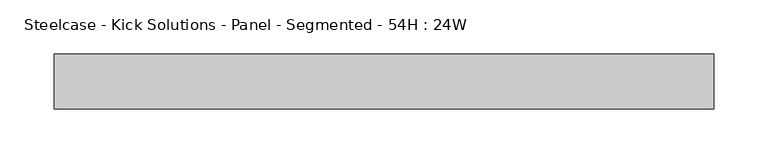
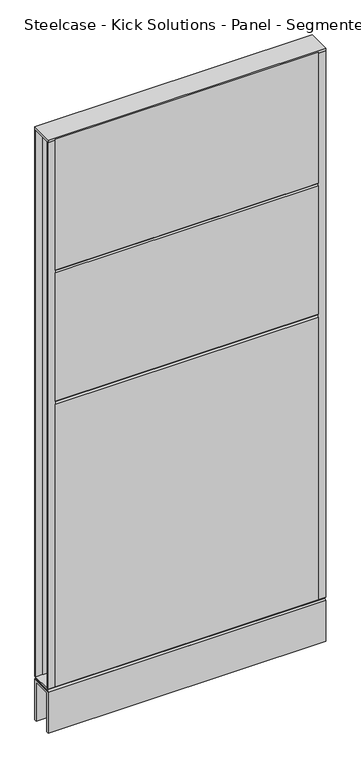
"""IFC4 building model written with IfcOpenShell, lengths in millimetres: furniture geometry, Steelcase - Kick Solutions - Panel - Segmented - 54H : 24W."""

from ifc_helpers import new_model, si_unit, frame, origin, place, context, project, spatial, polyline, outline, extrude, source, transform, mapped, element, save


def steelcase_kick_solutions_panel_segmented_54h_24w_b8406572(model_context):
    return source(origin(), model_context, "Body", "SweptSolid", [
        extrude(outline(polyline([(1.5e-06, 101.600003), (-3.175, 101.600003), (-3.175, 1371.6), (1.5e-06, 1368.5188448), (1.5e-06, 101.600003)])), frame((15.8749996, 0.0, 0.0), z_axis=(1.0, 0.0, 0.0), x_axis=(0.0, 1.0, 0.0)), (0.0, 0.0, 1.0), 577.8500008),
        extrude(outline(polyline([(-50.8000015, 1069.8811552), (-50.8000015, 1374.648), (-47.625, 1371.6), (-47.625, 1066.8), (-50.8000015, 1069.8811552)])), frame((15.8749996, 0.0, 0.0), z_axis=(1.0, 0.0, 0.0), x_axis=(0.0, 1.0, 0.0)), (0.0, 0.0, 1.0), 577.8500008),
        extrude(outline(polyline([(-50.8000015, 765.0811552), (-50.8000015, 1063.7188448), (-47.625, 1066.8), (-47.625, 762.0), (-50.8000015, 765.0811552)])), frame((15.8749996, 0.0, 0.0), z_axis=(1.0, 0.0, 0.0), x_axis=(0.0, 1.0, 0.0)), (0.0, 0.0, 1.0), 577.8500008),
        extrude(outline(polyline([(-50.8000015, 101.600003), (-50.8000015, 758.9188448), (-47.625, 762.0), (-47.625, 101.600003), (-50.8000015, 101.600003)])), frame((15.8749996, 0.0, 0.0), z_axis=(1.0, 0.0, 0.0), x_axis=(0.0, 1.0, 0.0)), (0.0, 0.0, 1.0), 577.8500008),
        extrude(outline(polyline([(609.6, -3.1750015), (593.7250004, -3.1750015), (593.7250004, 0.0), (609.6, 0.0), (609.6, -3.1750015)])), frame((0.0, 0.0, 101.7169049), z_axis=(0.0, 0.0, 1.0), x_axis=(1.0, 0.0, 0.0)), (0.0, 0.0, 1.0), 1269.999997),
        extrude(outline(polyline([(15.8749996, -50.8000015), (0.0, -50.8000015), (0.0, -47.625), (15.8749996, -47.625), (15.8749996, -50.8000015)])), frame((0.0, 0.0, 101.7169049), z_axis=(0.0, 0.0, 1.0), x_axis=(1.0, 0.0, 0.0)), (0.0, 0.0, 1.0), 1269.999997),
        extrude(outline(polyline([(-50.7995075, 101.7169049), (-0.000494, 101.7169049), (-3.0583512, 98.5421458), (-47.7416503, 98.5421458), (-50.7995075, 101.7169049)])), frame((0.0, 0.0, 0.0), z_axis=(1.0, 0.0, 0.0), x_axis=(0.0, 1.0, 0.0)), (0.0, 0.0, 1.0), 609.6),
        extrude(outline(polyline([(609.6, 0.0), (609.6, -50.8000015), (0.0, -50.8000015), (0.0, 0.0), (609.6, 0.0)])), frame((0.0, 0.0, 1371.7169018), z_axis=(0.0, 0.0, 1.0), x_axis=(1.0, 0.0, 0.0)), (0.0, 0.0, 1.0), 6.35),
        extrude(outline(polyline([(15.8749996, -3.1750015), (0.0, -3.1750015), (0.0, 0.0), (15.8749996, 0.0), (15.8749996, -3.1750015)])), frame((0.0, 0.0, 101.7169049), z_axis=(0.0, 0.0, 1.0), x_axis=(1.0, 0.0, 0.0)), (0.0, 0.0, 1.0), 1269.999997),
        extrude(outline(polyline([(609.6, -50.8000015), (593.7250004, -50.8000015), (593.7250004, -47.625), (609.6, -47.625), (609.6, -50.8000015)])), frame((0.0, 0.0, 101.7169049), z_axis=(0.0, 0.0, 1.0), x_axis=(1.0, 0.0, 0.0)), (0.0, 0.0, 1.0), 1269.999997),
        extrude(outline(polyline([(-50.8000015, 95.3668927), (-47.6247484, 98.5421458), (-3.1752531, 98.5421458), (0.0, 95.3668927), (-50.8000015, 95.3668927)])), frame((0.0, 0.0, 0.0), z_axis=(1.0, 0.0, 0.0), x_axis=(0.0, 1.0, 0.0)), (0.0, 0.0, 1.0), 609.6),
        extrude(outline(polyline([(0.0, 0.0), (-5.08, 0.0), (-5.08, 90.2869018), (-45.7200015, 90.2869018), (-45.7200015, 0.0), (-50.8000015, 0.0), (-50.8000015, 95.3669018), (0.0, 95.3669018), (0.0, 0.0)])), frame((0.0, 0.0, 0.0), z_axis=(1.0, 0.0, 0.0), x_axis=(0.0, 1.0, 0.0)), (0.0, 0.0, 1.0), 609.6),
    ])


if __name__ == "__main__":
    model = new_model("IFC4")
    model_context = context("Model", 3, world=origin())
    ifc_project = project(units=[si_unit("LENGTHUNIT", "METRE", prefix="MILLI")], contexts=[model_context])
    site = spatial("IfcSite", under=ifc_project)
    building = spatial("IfcBuilding", under=site)
    placement = place(None, origin())
    steelcase_kick_solutions_panel_segmented_54h_24w_shape = steelcase_kick_solutions_panel_segmented_54h_24w_b8406572(model_context)
    element("IfcFurniture", 1, ObjectType="Steelcase - Kick Solutions - Panel - Segmented - 54H : 24W", at=placement, inside=building, context=model_context, shape_type="MappedRepresentation", body=[
        mapped(steelcase_kick_solutions_panel_segmented_54h_24w_shape, transform((0.0, 0.0, 0.0), x_axis=(1.0, 0.0, 0.0), y_axis=(0.0, 1.0, 0.0), z_axis=(0.0, 0.0, 1.0))),
    ])
    save(model, "model.ifc")
